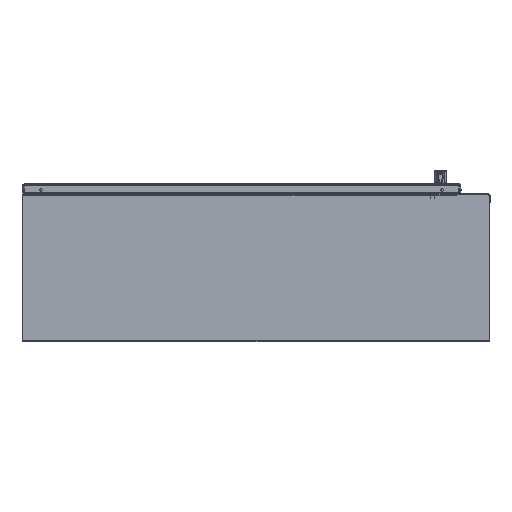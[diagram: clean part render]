
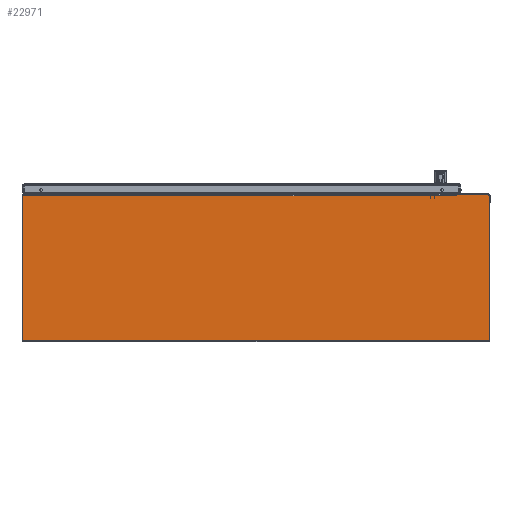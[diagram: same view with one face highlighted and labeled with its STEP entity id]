
A CAD part, front view. The second image highlights one B-rep face of the part: STEP entity #22971.
In plain terms, the highlighted planar face has unit normal (0, -1, 0) as drawn and (0, 0, 1) by its records, which use the part's own axes.
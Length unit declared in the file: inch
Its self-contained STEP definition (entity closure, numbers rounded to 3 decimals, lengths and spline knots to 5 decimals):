
#620 = AXIS2_PLACEMENT_3D ( 'NONE', #39777, #62208, #88042 ) ;
#2570 = DIRECTION ( 'NONE',  ( 1., 0., 0. ) ) ;
#3647 = DIRECTION ( 'NONE',  ( 1., 0., 0. ) ) ;
#4280 = ORIENTED_EDGE ( 'NONE', *, *, #51658, .T. ) ;
#7408 = VECTOR ( 'NONE', #19156, 39.37008 ) ;
#8023 = CARTESIAN_POINT ( 'NONE',  ( 19.668, 11.747, 0.072 ) ) ;
#8065 = VECTOR ( 'NONE', #2570, 39.37008 ) ;
#8488 = DIRECTION ( 'NONE',  ( 1., 0., 0. ) ) ;
#10129 = PLANE ( 'NONE',  #71720 ) ;
#11073 = EDGE_CURVE ( 'NONE', #34234, #13391, #86360, .T. ) ;
#12510 = CARTESIAN_POINT ( 'NONE',  ( -18.13, 0.102, 0.072 ) ) ;
#13257 = VECTOR ( 'NONE', #16505, 39.37008 ) ;
#13391 = VERTEX_POINT ( 'NONE', #87206 ) ;
#16077 = VECTOR ( 'NONE', #72357, 39.37008 ) ;
#16505 = DIRECTION ( 'NONE',  ( 0., 1., 0. ) ) ;
#17556 = CARTESIAN_POINT ( 'NONE',  ( 19.566, 11.747, 0.072 ) ) ;
#19156 = DIRECTION ( 'NONE',  ( 0., -1., 0. ) ) ;
#19721 = EDGE_CURVE ( 'NONE', #81893, #99178, #75540, .T. ) ;
#22971 = ADVANCED_FACE ( 'NONE', ( #87116 ), #10129, .T. ) ;
#24679 = CARTESIAN_POINT ( 'NONE',  ( -18.13, 0., 0.072 ) ) ;
#25010 = DIRECTION ( 'NONE',  ( 0., 0., 1. ) ) ;
#25754 = LINE ( 'NONE', #71673, #16077 ) ;
#27916 = CIRCLE ( 'NONE', #620, 0.102 ) ;
#29435 = CARTESIAN_POINT ( 'NONE',  ( 16.99, 11.763, 0.072 ) ) ;
#32264 = CARTESIAN_POINT ( 'NONE',  ( -18.13, 11.763, 0.072 ) ) ;
#32744 = CARTESIAN_POINT ( 'NONE',  ( 16.99, 11.763, 0.072 ) ) ;
#34234 = VERTEX_POINT ( 'NONE', #8023 ) ;
#34466 = CARTESIAN_POINT ( 'NONE',  ( 16.99, 0., 0.072 ) ) ;
#35336 = ORIENTED_EDGE ( 'NONE', *, *, #78354, .T. ) ;
#35837 = AXIS2_PLACEMENT_3D ( 'NONE', #85366, #38710, #8488 ) ;
#36100 = VECTOR ( 'NONE', #80796, 39.37008 ) ;
#37168 = VERTEX_POINT ( 'NONE', #54457 ) ;
#38675 = ORIENTED_EDGE ( 'NONE', *, *, #81117, .F. ) ;
#38710 = DIRECTION ( 'NONE',  ( 0., 0., 1. ) ) ;
#39777 = CARTESIAN_POINT ( 'NONE',  ( 19.566, 0.102, 0.072 ) ) ;
#40561 = AXIS2_PLACEMENT_3D ( 'NONE', #17556, #79838, #95800 ) ;
#44159 = VERTEX_POINT ( 'NONE', #12510 ) ;
#46686 = CARTESIAN_POINT ( 'NONE',  ( 19.566, 0., 0.072 ) ) ;
#48882 = ORIENTED_EDGE ( 'NONE', *, *, #99499, .T. ) ;
#50908 = ORIENTED_EDGE ( 'NONE', *, *, #11073, .T. ) ;
#51658 = EDGE_CURVE ( 'NONE', #81477, #34234, #67999, .T. ) ;
#51956 = VERTEX_POINT ( 'NONE', #46686 ) ;
#54457 = CARTESIAN_POINT ( 'NONE',  ( -18.028, 0., 0.072 ) ) ;
#58023 = LINE ( 'NONE', #32744, #36100 ) ;
#59696 = EDGE_CURVE ( 'NONE', #37168, #51956, #70133, .T. ) ;
#62208 = DIRECTION ( 'NONE',  ( 0., 0., 1. ) ) ;
#63019 = ORIENTED_EDGE ( 'NONE', *, *, #97395, .T. ) ;
#67407 = VERTEX_POINT ( 'NONE', #32264 ) ;
#67999 = LINE ( 'NONE', #93032, #13257 ) ;
#70133 = LINE ( 'NONE', #94710, #8065 ) ;
#70828 = ORIENTED_EDGE ( 'NONE', *, *, #19721, .T. ) ;
#71673 = CARTESIAN_POINT ( 'NONE',  ( -18.13, 11.925, 0.072 ) ) ;
#71720 = AXIS2_PLACEMENT_3D ( 'NONE', #24679, #25010, #72016 ) ;
#72016 = DIRECTION ( 'NONE',  ( 1., 0., 0. ) ) ;
#72357 = DIRECTION ( 'NONE',  ( 0., -1., 0. ) ) ;
#75540 = LINE ( 'NONE', #34466, #7408 ) ;
#78354 = EDGE_CURVE ( 'NONE', #67407, #44159, #25754, .T. ) ;
#79064 = LINE ( 'NONE', #80502, #82781 ) ;
#79095 = CARTESIAN_POINT ( 'NONE',  ( 19.668, 0.102, 0.072 ) ) ;
#79838 = DIRECTION ( 'NONE',  ( 0., 0., 1. ) ) ;
#80502 = CARTESIAN_POINT ( 'NONE',  ( 19.668, 11.849, 0.072 ) ) ;
#80796 = DIRECTION ( 'NONE',  ( -1., 0., 0. ) ) ;
#81117 = EDGE_CURVE ( 'NONE', #81893, #13391, #79064, .T. ) ;
#81477 = VERTEX_POINT ( 'NONE', #79095 ) ;
#81893 = VERTEX_POINT ( 'NONE', #93571 ) ;
#82781 = VECTOR ( 'NONE', #3647, 39.37008 ) ;
#85366 = CARTESIAN_POINT ( 'NONE',  ( -18.028, 0.102, 0.072 ) ) ;
#86360 = CIRCLE ( 'NONE', #40561, 0.102 ) ;
#87116 = FACE_OUTER_BOUND ( 'NONE', #87757, .T. ) ;
#87206 = CARTESIAN_POINT ( 'NONE',  ( 19.566, 11.849, 0.072 ) ) ;
#87757 = EDGE_LOOP ( 'NONE', ( #4280, #50908, #38675, #70828, #48882, #35336, #88085, #95974, #63019 ) ) ;
#88042 = DIRECTION ( 'NONE',  ( 1., 0., 0. ) ) ;
#88085 = ORIENTED_EDGE ( 'NONE', *, *, #98895, .T. ) ;
#93032 = CARTESIAN_POINT ( 'NONE',  ( 19.668, 11.925, 0.072 ) ) ;
#93571 = CARTESIAN_POINT ( 'NONE',  ( 16.99, 11.849, 0.072 ) ) ;
#94710 = CARTESIAN_POINT ( 'NONE',  ( -18.13, 0., 0.072 ) ) ;
#95800 = DIRECTION ( 'NONE',  ( 1., 0., 0. ) ) ;
#95974 = ORIENTED_EDGE ( 'NONE', *, *, #59696, .T. ) ;
#97082 = CIRCLE ( 'NONE', #35837, 0.102 ) ;
#97395 = EDGE_CURVE ( 'NONE', #51956, #81477, #27916, .T. ) ;
#98895 = EDGE_CURVE ( 'NONE', #44159, #37168, #97082, .T. ) ;
#99178 = VERTEX_POINT ( 'NONE', #29435 ) ;
#99499 = EDGE_CURVE ( 'NONE', #99178, #67407, #58023, .T. ) ;
